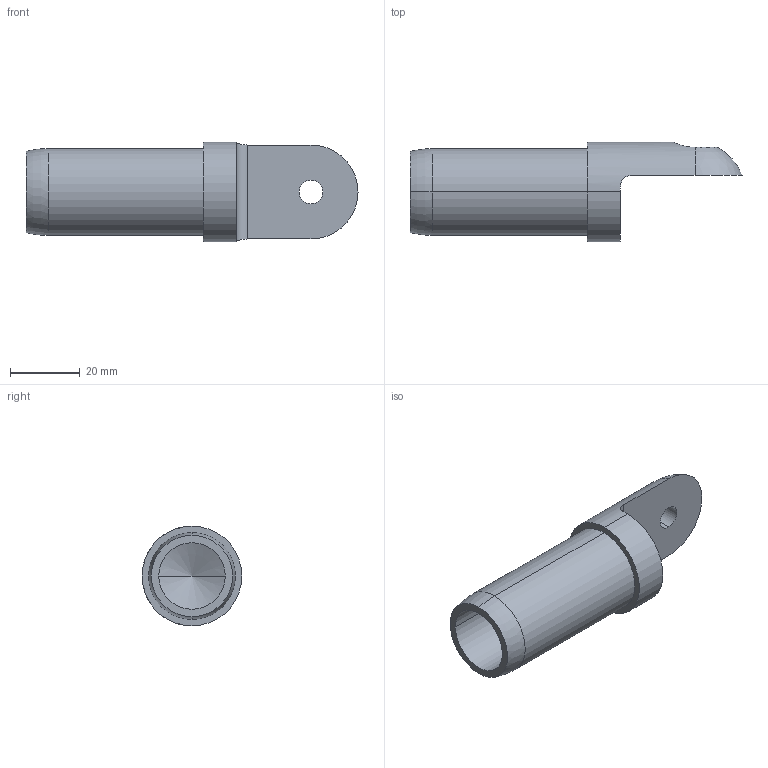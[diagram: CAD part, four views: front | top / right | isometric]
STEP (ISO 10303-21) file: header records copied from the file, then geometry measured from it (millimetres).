
FILE_DESCRIPTION (( 'STEP AP214' ), '1' );
FILE_NAME ('DRP-002-0511-00.STEP', '2013-12-20T16:47:47', ( 'ydmin' ), ( 'Microsoft' ), 'SwSTEP 2.0', 'SolidWorks 2013', '' );
FILE_SCHEMA (( 'AUTOMOTIVE_DESIGN' ));
Length unit declared in the file: inch
Products named in the file (1): DRP-002-0511-00
Bounding box: 95.16 x 28.57 x 28.57 mm (x, y, z)
Volume: 20627.3 mm3; surface area: 11131.8 mm2
Topology: 1 solids, 1 shells, 20 faces, 47 edges, 29 vertices
Faces by surface type: cylinder 10, plane 5, torus 2, cone 2, sphere 1
Entity records: 678 total; most frequent: CARTESIAN_POINT 164, DIRECTION 110, ORIENTED_EDGE 90, AXIS2_PLACEMENT_3D 47, EDGE_CURVE 45, VERTEX_POINT 29, CIRCLE 26, EDGE_LOOP 24
